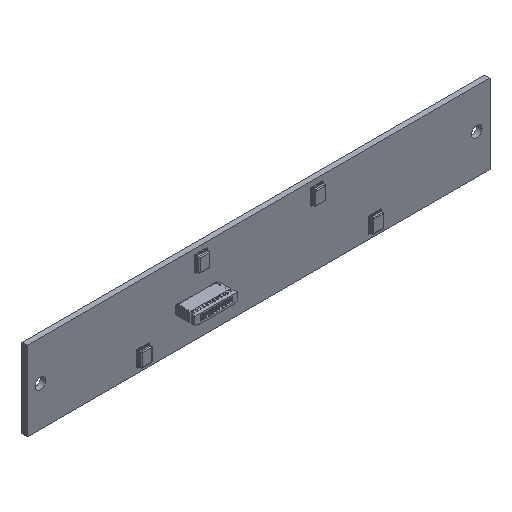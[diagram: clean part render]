
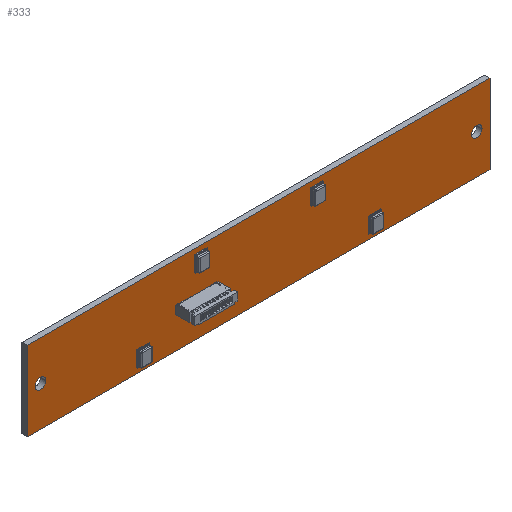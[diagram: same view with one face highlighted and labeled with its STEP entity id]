
A CAD part, isometric view. The second image highlights one B-rep face of the part: STEP entity #333.
In plain terms, the highlighted planar face has unit normal (0, -1, 0).
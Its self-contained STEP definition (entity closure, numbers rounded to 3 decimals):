
#2=DIRECTION('',(0.,0.,1.));
#3=VECTOR('',#2,24.);
#4=CARTESIAN_POINT('',(-70.,0.,-12.));
#5=LINE('',#4,#3);
#6=DIRECTION('',(1.,0.,0.));
#7=VECTOR('',#6,140.);
#8=CARTESIAN_POINT('',(-70.,0.,12.));
#9=LINE('',#8,#7);
#10=DIRECTION('',(0.,0.,-1.));
#11=VECTOR('',#10,24.);
#12=CARTESIAN_POINT('',(70.,0.,12.));
#13=LINE('',#12,#11);
#14=DIRECTION('',(-1.,0.,0.));
#15=VECTOR('',#14,140.);
#16=CARTESIAN_POINT('',(70.,0.,-12.));
#17=LINE('',#16,#15);
#18=CARTESIAN_POINT('',(-66.,0.,0.));
#19=DIRECTION('',(0.,1.,0.));
#20=DIRECTION('',(1.,0.,0.));
#21=AXIS2_PLACEMENT_3D('',#18,#19,#20);
#23=CARTESIAN_POINT('',(-66.,0.,0.));
#24=DIRECTION('',(0.,1.,0.));
#25=DIRECTION('',(-1.,0.,0.));
#26=AXIS2_PLACEMENT_3D('',#23,#24,#25);
#28=CARTESIAN_POINT('',(66.,0.,0.));
#29=DIRECTION('',(0.,1.,0.));
#30=DIRECTION('',(1.,0.,0.));
#31=AXIS2_PLACEMENT_3D('',#28,#29,#30);
#33=CARTESIAN_POINT('',(66.,0.,0.));
#34=DIRECTION('',(0.,1.,0.));
#35=DIRECTION('',(-1.,0.,0.));
#36=AXIS2_PLACEMENT_3D('',#33,#34,#35);
#38=CARTESIAN_POINT('',(17.5,0.,9.));
#39=DIRECTION('',(0.,1.,0.));
#40=DIRECTION('',(-1.,0.,0.));
#41=AXIS2_PLACEMENT_3D('',#38,#39,#40);
#43=CARTESIAN_POINT('',(17.5,0.,9.));
#44=DIRECTION('',(0.,1.,0.));
#45=DIRECTION('',(1.,0.,0.));
#46=AXIS2_PLACEMENT_3D('',#43,#44,#45);
#48=CARTESIAN_POINT('',(-17.5,0.,9.));
#49=DIRECTION('',(0.,1.,0.));
#50=DIRECTION('',(-1.,0.,0.));
#51=AXIS2_PLACEMENT_3D('',#48,#49,#50);
#53=CARTESIAN_POINT('',(-17.5,0.,9.));
#54=DIRECTION('',(0.,1.,0.));
#55=DIRECTION('',(1.,0.,0.));
#56=AXIS2_PLACEMENT_3D('',#53,#54,#55);
#58=CARTESIAN_POINT('',(-35.,0.,-9.));
#59=DIRECTION('',(0.,1.,0.));
#60=DIRECTION('',(-1.,0.,0.));
#61=AXIS2_PLACEMENT_3D('',#58,#59,#60);
#63=CARTESIAN_POINT('',(-35.,0.,-9.));
#64=DIRECTION('',(0.,1.,0.));
#65=DIRECTION('',(1.,0.,0.));
#66=AXIS2_PLACEMENT_3D('',#63,#64,#65);
#68=CARTESIAN_POINT('',(35.,0.,-9.));
#69=DIRECTION('',(0.,1.,0.));
#70=DIRECTION('',(-1.,0.,0.));
#71=AXIS2_PLACEMENT_3D('',#68,#69,#70);
#73=CARTESIAN_POINT('',(35.,0.,-9.));
#74=DIRECTION('',(0.,1.,0.));
#75=DIRECTION('',(1.,0.,0.));
#76=AXIS2_PLACEMENT_3D('',#73,#74,#75);
#218=CARTESIAN_POINT('',(-70.,0.,-12.));
#219=CARTESIAN_POINT('',(-70.,0.,12.));
#220=VERTEX_POINT('',#218);
#221=VERTEX_POINT('',#219);
#222=CARTESIAN_POINT('',(70.,0.,12.));
#223=VERTEX_POINT('',#222);
#224=CARTESIAN_POINT('',(70.,0.,-12.));
#225=VERTEX_POINT('',#224);
#234=CARTESIAN_POINT('',(-64.4,0.,0.));
#235=CARTESIAN_POINT('',(-67.6,0.,0.));
#236=VERTEX_POINT('',#234);
#237=VERTEX_POINT('',#235);
#238=CARTESIAN_POINT('',(67.6,0.,0.));
#239=CARTESIAN_POINT('',(64.4,0.,0.));
#240=VERTEX_POINT('',#238);
#241=VERTEX_POINT('',#239);
#250=CARTESIAN_POINT('',(17.3,0.,9.));
#251=CARTESIAN_POINT('',(17.7,0.,9.));
#252=VERTEX_POINT('',#250);
#253=VERTEX_POINT('',#251);
#254=CARTESIAN_POINT('',(-17.7,0.,9.));
#255=CARTESIAN_POINT('',(-17.3,0.,9.));
#256=VERTEX_POINT('',#254);
#257=VERTEX_POINT('',#255);
#258=CARTESIAN_POINT('',(-35.2,0.,-9.));
#259=CARTESIAN_POINT('',(-34.8,0.,-9.));
#260=VERTEX_POINT('',#258);
#261=VERTEX_POINT('',#259);
#262=CARTESIAN_POINT('',(34.8,0.,-9.));
#263=CARTESIAN_POINT('',(35.2,0.,-9.));
#264=VERTEX_POINT('',#262);
#265=VERTEX_POINT('',#263);
#282=CARTESIAN_POINT('',(0.,0.,0.));
#283=DIRECTION('',(0.,1.,0.));
#284=DIRECTION('',(1.,0.,0.));
#285=AXIS2_PLACEMENT_3D('',#282,#283,#284);
#286=PLANE('',#285);
#288=ORIENTED_EDGE('',*,*,#287,.T.);
#290=ORIENTED_EDGE('',*,*,#289,.T.);
#292=ORIENTED_EDGE('',*,*,#291,.T.);
#294=ORIENTED_EDGE('',*,*,#293,.T.);
#295=EDGE_LOOP('',(#288,#290,#292,#294));
#296=FACE_OUTER_BOUND('',#295,.F.);
#298=ORIENTED_EDGE('',*,*,#297,.F.);
#300=ORIENTED_EDGE('',*,*,#299,.F.);
#301=EDGE_LOOP('',(#298,#300));
#302=FACE_BOUND('',#301,.F.);
#304=ORIENTED_EDGE('',*,*,#303,.F.);
#306=ORIENTED_EDGE('',*,*,#305,.F.);
#307=EDGE_LOOP('',(#304,#306));
#308=FACE_BOUND('',#307,.F.);
#310=ORIENTED_EDGE('',*,*,#309,.F.);
#312=ORIENTED_EDGE('',*,*,#311,.F.);
#313=EDGE_LOOP('',(#310,#312));
#314=FACE_BOUND('',#313,.F.);
#316=ORIENTED_EDGE('',*,*,#315,.F.);
#318=ORIENTED_EDGE('',*,*,#317,.F.);
#319=EDGE_LOOP('',(#316,#318));
#320=FACE_BOUND('',#319,.F.);
#322=ORIENTED_EDGE('',*,*,#321,.F.);
#324=ORIENTED_EDGE('',*,*,#323,.F.);
#325=EDGE_LOOP('',(#322,#324));
#326=FACE_BOUND('',#325,.F.);
#328=ORIENTED_EDGE('',*,*,#327,.F.);
#330=ORIENTED_EDGE('',*,*,#329,.F.);
#331=EDGE_LOOP('',(#328,#330));
#332=FACE_BOUND('',#331,.F.);
#333=ADVANCED_FACE('',(#296,#302,#308,#314,#320,#326,#332),#286,.F.);
#22=CIRCLE('',#21,1.6);
#27=CIRCLE('',#26,1.6);
#32=CIRCLE('',#31,1.6);
#37=CIRCLE('',#36,1.6);
#42=CIRCLE('',#41,0.2);
#47=CIRCLE('',#46,0.2);
#52=CIRCLE('',#51,0.2);
#57=CIRCLE('',#56,0.2);
#62=CIRCLE('',#61,0.2);
#67=CIRCLE('',#66,0.2);
#72=CIRCLE('',#71,0.2);
#77=CIRCLE('',#76,0.2);
#287=EDGE_CURVE('',#220,#221,#5,.T.);
#289=EDGE_CURVE('',#221,#223,#9,.T.);
#291=EDGE_CURVE('',#223,#225,#13,.T.);
#293=EDGE_CURVE('',#225,#220,#17,.T.);
#297=EDGE_CURVE('',#236,#237,#22,.T.);
#299=EDGE_CURVE('',#237,#236,#27,.T.);
#303=EDGE_CURVE('',#240,#241,#32,.T.);
#305=EDGE_CURVE('',#241,#240,#37,.T.);
#309=EDGE_CURVE('',#252,#253,#42,.T.);
#311=EDGE_CURVE('',#253,#252,#47,.T.);
#315=EDGE_CURVE('',#256,#257,#52,.T.);
#317=EDGE_CURVE('',#257,#256,#57,.T.);
#321=EDGE_CURVE('',#260,#261,#62,.T.);
#323=EDGE_CURVE('',#261,#260,#67,.T.);
#327=EDGE_CURVE('',#264,#265,#72,.T.);
#329=EDGE_CURVE('',#265,#264,#77,.T.);
